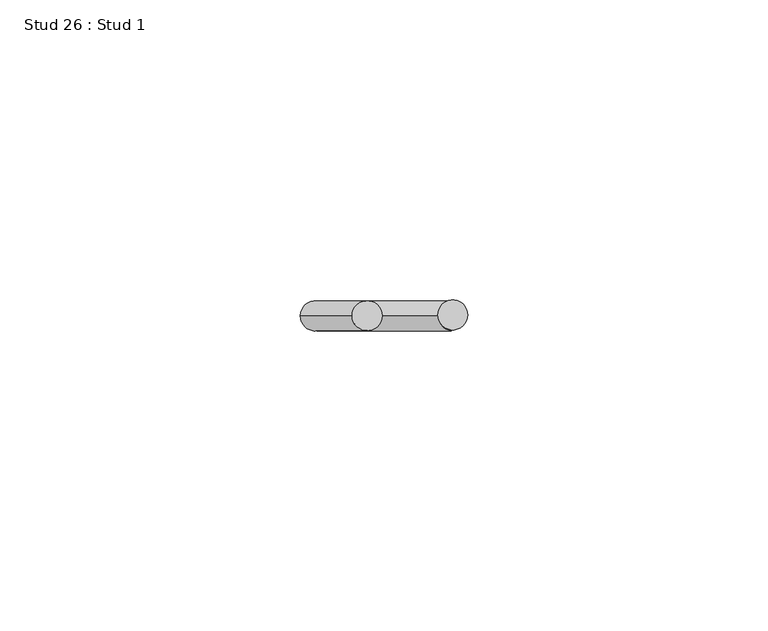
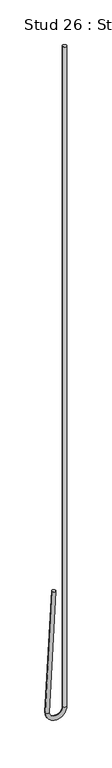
"""IFC4 building model written with IfcOpenShell, lengths in millimetres: proxy geometry, Stud 26 : Stud 1."""

from ifc_helpers import new_model, si_unit, point, frame, origin, place, context, project, spatial, circle_curve, ellipse_curve, trimmed, source, transform, mapped, element, save
from ifc_brep_helpers import plane_surface, cylinder_surface, revolved_surface, advanced_brep


def stud_26_stud_1_3bea2599(model_context):
    return source(origin(), model_context, "Body", "AdvancedBrep", [
        advanced_brep(
        [(-13440.3532788, 7110.5191481, 3640.800192), (-13435.3601311, 7110.5191481, 3640.5385122), (-13448.9939451, 7110.5191481, 3475.9264558), (-13444.0007975, 7110.5191481, 3475.664776), (-13426.0920812, 7110.5191481, 3475.7956159), (-13421.0920812, 7110.5191481, 3475.7956159), (-13421.0920812, 7110.5191481, 4390.1956159), (-13426.0920812, 7110.5191481, 4390.1956159)],
        [
            (0, 1, circle_curve(frame((-13437.8567049, 7110.5191481, 3640.6693521), z_axis=(0.05233595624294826, 0.0, 0.9986295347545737), x_axis=(0.9986295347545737, 0.0, -0.05233595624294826)), 2.5)),
            (1, 0, circle_curve(frame((-13437.8567049, 7110.5191481, 3640.6693521), z_axis=(0.05233595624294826, 0.0, 0.9986295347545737), x_axis=(0.9986295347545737, 0.0, -0.05233595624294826)), 2.5)),
            (0, 2),
            (2, 3, circle_curve(frame((-13446.4973713, 7110.5191481, 3475.7956159), z_axis=(0.05233595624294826, 0.0, 0.9986295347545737), x_axis=(0.9986295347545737, 0.0, -0.05233595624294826)), 2.5)),
            (3, 1),
            (3, 2, circle_curve(frame((-13446.4973713, 7110.5191481, 3475.7956159), z_axis=(0.05233595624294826, 0.0, 0.9986295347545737), x_axis=(0.9986295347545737, 0.0, -0.05233595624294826)), 2.5)),
            (4, 3, circle_curve(frame((-13435.0447263, 7110.5191481, 3475.7956159), z_axis=(0.0, 1.0, 0.0), x_axis=(-1.0, 0.0, 0.0)), 8.952645)),
            (2, 5, circle_curve(frame((-13435.0447263, 7110.5191481, 3475.7956159), z_axis=(0.0, -1.0, 0.0), x_axis=(-1.0, 0.0, 0.0)), 13.952645)),
            (5, 4, circle_curve(frame((-13423.5920812, 7110.5191481, 3475.7956159), z_axis=(0.0, 0.0, -1.0), x_axis=(-1.0, 0.0, 0.0)), 2.5)),
            (4, 5, circle_curve(frame((-13423.5920812, 7110.5191481, 3475.7956159), z_axis=(0.0, 0.0, -1.0), x_axis=(-1.0, 0.0, 0.0)), 2.5)),
            (6, 7, circle_curve(frame((-13423.5920812, 7110.5191481, 4390.1956159), z_axis=(0.0, 0.0, 1.0), x_axis=(-1.0, 0.0, 0.0)), 2.5)),
            (7, 6, circle_curve(frame((-13423.5920812, 7110.5191481, 4390.1956159), z_axis=(0.0, 0.0, 1.0), x_axis=(-1.0, 0.0, 0.0)), 2.5)),
            (5, 6),
            (7, 4),
        ],
        [
            plane_surface(frame((-13437.8567049, 7704.2441481, 3640.6693521), z_axis=(0.05233595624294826, 0.0, 0.9986295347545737), x_axis=(0.0, -1.0, 0.0))),
            cylinder_surface(frame((-13437.8567049, 7110.5191481, 3640.6693521), z_axis=(0.05233595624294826, 0.0, 0.9986295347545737), x_axis=(0.9986295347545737, 0.0, -0.05233595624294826)), 2.5),
            revolved_surface(trimmed(ellipse_curve(frame((-13446.4973713, 7110.5191481, 3475.7956159), z_axis=(0.0, 0.0, 1.0), x_axis=(1.0, 0.0, 0.0)), 2.5, 2.5), [point((-13448.9973713, 7110.5191481, 3475.7956159))], [point((-13443.9973713, 7110.5191481, 3475.7956159))], True, "CARTESIAN"), (-13435.0447263, 7704.2441481, 3475.7956159), (0.0, -1.0, 0.0)),
            revolved_surface(trimmed(ellipse_curve(frame((-13446.4973713, 7110.5191481, 3475.7956159), z_axis=(0.0, 0.0, 1.0), x_axis=(1.0, 0.0, 0.0)), 2.5, 2.5), [point((-13443.9973713, 7110.5191481, 3475.7956159))], [point((-13448.9973713, 7110.5191481, 3475.7956159))], True, "CARTESIAN"), (-13435.0447263, 7704.2441481, 3475.7956159), (0.0, -1.0, 0.0)),
            plane_surface(frame((-13423.5920812, 7704.2441481, 4390.1956159), z_axis=(0.0, 0.0, 1.0), x_axis=(0.0, -1.0, 0.0))),
            cylinder_surface(frame((-13423.5920812, 7110.5191481, 3475.7956159), z_axis=(0.0, 0.0, -1.0), x_axis=(-1.0, 0.0, 0.0)), 2.5),
        ],
        [
            (0, [[1, 2]]),
            (1, [[-1, 3, 4, 5]]),
            (1, [[-2, -5, 6, -3]]),
            (2, [[7, -4, 8, 9]]),
            (3, [[-8, -6, -7, 10]]),
            (4, [[11, 12]]),
            (5, [[-9, 13, -12, 14]]),
            (5, [[-10, -14, -11, -13]]),
        ],
    ),
    ])


if __name__ == "__main__":
    model = new_model("IFC4")
    model_context = context("Model", 3, world=origin())
    ifc_project = project(units=[si_unit("LENGTHUNIT", "METRE", prefix="MILLI")], contexts=[model_context])
    site = spatial("IfcSite", under=ifc_project)
    building = spatial("IfcBuilding", under=site)
    placement = place(None, origin())
    stud_26_stud_1_shape = stud_26_stud_1_3bea2599(model_context)
    element("IfcBuildingElementProxy", 1, Name="Stud 26 : Stud 1", ObjectType="Stud 26 : Stud 1", at=placement, inside=building, context=model_context, shape_type="MappedRepresentation", body=[
        mapped(stud_26_stud_1_shape, transform((0.0, 0.0, 0.0), x_axis=(1.0, 0.0, 0.0), y_axis=(0.0, 1.0, 0.0), z_axis=(0.0, 0.0, 1.0))),
    ])
    save(model, "model.ifc")
